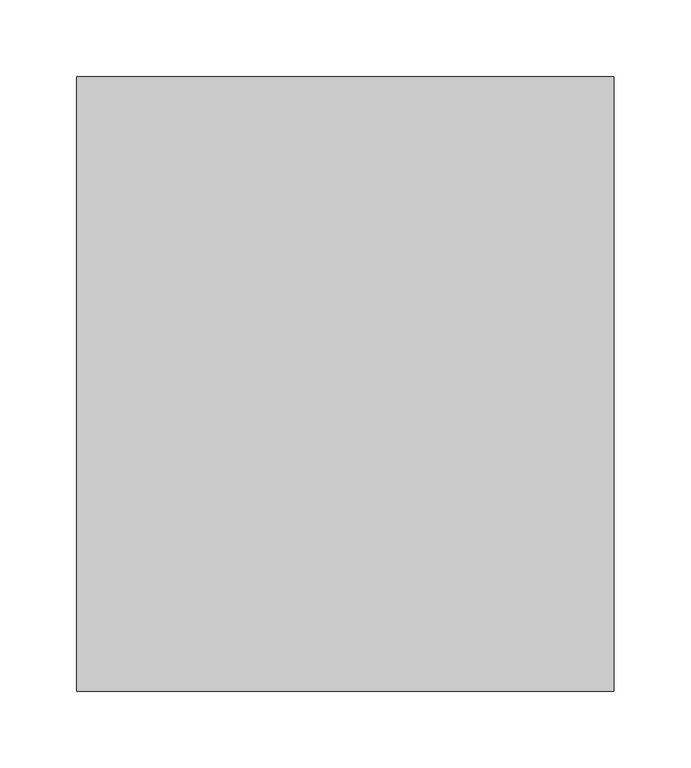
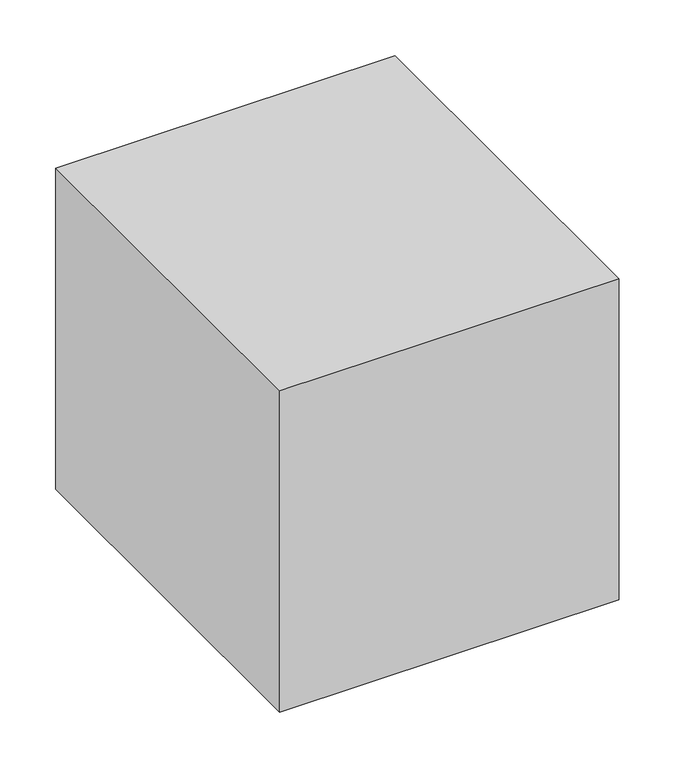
"""IFC4 building model written with IfcOpenShell, lengths in millimetres: proxy geometry, 制気口ボックス : 制気口ボックス."""

from ifc_helpers import new_model, si_unit, frame, origin, place, context, project, spatial, polyline, outline, extrude, source, transform, mapped, element, save


def mechanical_equipment_20ed8142(model_context):
    return source(origin(), model_context, "Body", "SweptSolid", [
        extrude(outline(polyline([(175.0, 200.0), (175.0, -200.0), (-175.0, -200.0), (-175.0, 200.0), (175.0, 200.0)])), frame((0.0, 0.0, -175.0), z_axis=(0.0, 0.0, 1.0), x_axis=(1.0, 0.0, 0.0)), (0.0, 0.0, 1.0), 350.0),
    ])


if __name__ == "__main__":
    model = new_model("IFC4")
    model_context = context("Model", 3, world=origin())
    ifc_project = project(units=[si_unit("LENGTHUNIT", "METRE", prefix="MILLI")], contexts=[model_context])
    site = spatial("IfcSite", under=ifc_project)
    building = spatial("IfcBuilding", under=site)
    placement = place(None, origin())
    mechanical_equipment_shape = mechanical_equipment_20ed8142(model_context)
    element("IfcBuildingElementProxy", 1, Name="制気口ボックス : 制気口ボックス", ObjectType="制気口ボックス : 制気口ボックス", at=placement, inside=building, context=model_context, shape_type="MappedRepresentation", body=[
        mapped(mechanical_equipment_shape, transform((0.0, 0.0, 0.0), x_axis=(1.0, 0.0, 0.0), y_axis=(0.0, 1.0, 0.0), z_axis=(0.0, 0.0, 1.0))),
    ])
    save(model, "model.ifc")
